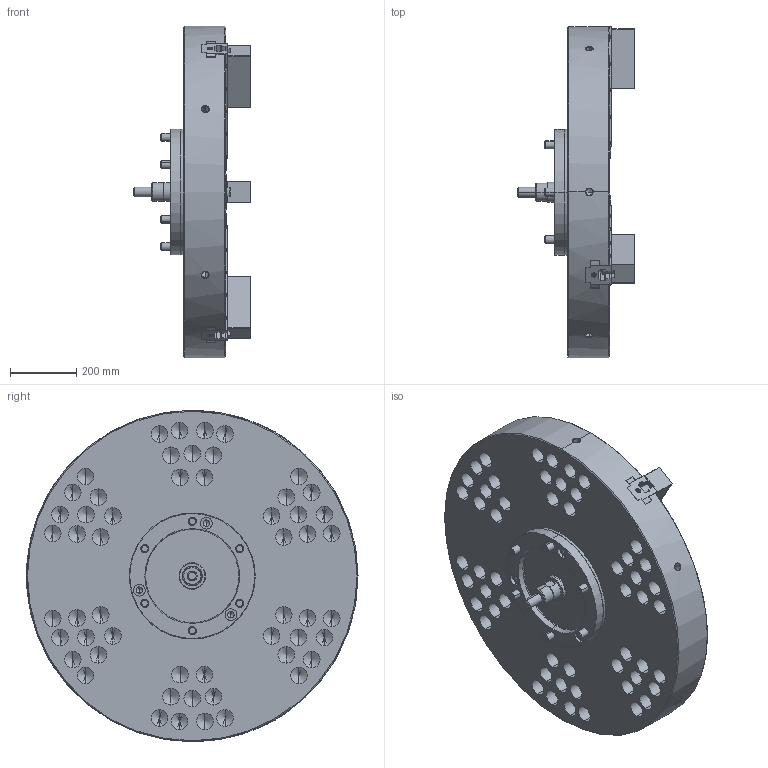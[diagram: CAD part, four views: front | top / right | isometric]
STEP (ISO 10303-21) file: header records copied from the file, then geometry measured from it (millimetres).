
FILE_DESCRIPTION (( 'STEP AP214' ), '1' );
FILE_NAME ('NV40C15_UC.STEP', '2019-12-19T23:27:58', ( '' ), ( '' ), 'SwSTEP 2.0', 'SolidWorks 2017', '' );
FILE_SCHEMA (( 'AUTOMOTIVE_DESIGN' ));
Length unit declared in the file: millimetre
Products named in the file (6): 61P418538_俿僫僢僩; P32262_ソフトジョー; NV40C15_UC; 結合; 0030124160; 0030120060
Assembly tree (18 placements, depth 2):
  NV40C15_UC
    P32262_ソフトジョー  x3
    61P418538_俿僫僢僩  x6
    0030120060  x6
    0030124160  x2
    結合
Bounding box: 352 x 1001.6 x 1000 mm (x, y, z)
Volume: 97666384.2 mm3; surface area: 3173985.4 mm2
Topology: 18 solids, 18 shells, 7036 faces, 19719 edges, 12701 vertices
Faces by surface type: plane 5892, cylinder 533, cone 493, torus 112, sphere 6
Entity records: 189886 total; most frequent: CARTESIAN_POINT 36551, ORIENTED_EDGE 33058, DIRECTION 29654, EDGE_CURVE 16529, LINE 14546, VECTOR 14546, VERTEX_POINT 10773, AXIS2_PLACEMENT_3D 7554
